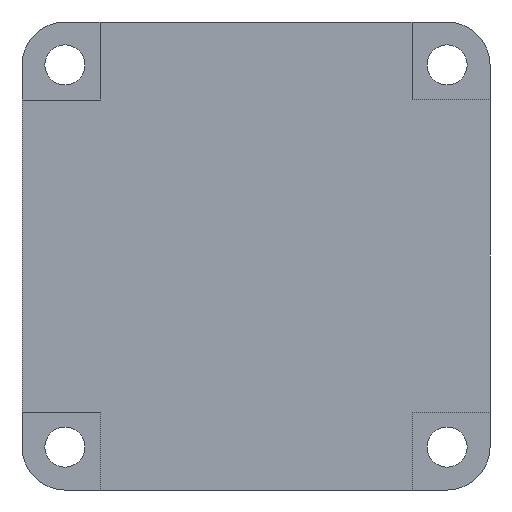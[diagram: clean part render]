
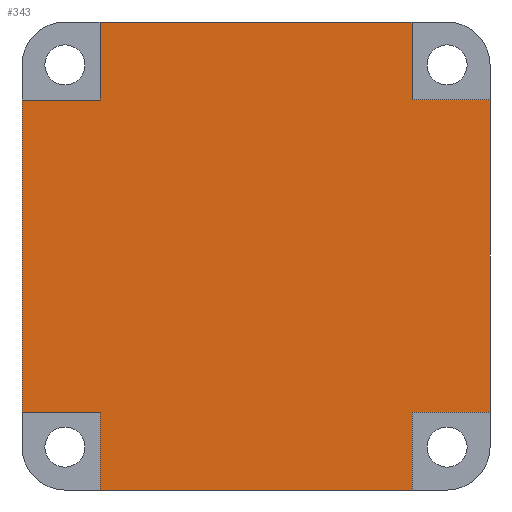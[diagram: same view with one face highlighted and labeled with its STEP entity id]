
A CAD part, front view. The second image highlights one B-rep face of the part: STEP entity #343.
In plain terms, the highlighted planar face has unit normal (0, -1, 0).
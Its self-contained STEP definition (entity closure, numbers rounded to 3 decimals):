
#4 = EDGE_CURVE ( 'NONE', #792, #860, #681, .T. ) ;
#18 = ORIENTED_EDGE ( 'NONE', *, *, #1107, .F. ) ;
#34 = LINE ( 'NONE', #686, #268 ) ;
#40 = DIRECTION ( 'NONE',  ( 0., 0., 1. ) ) ;
#64 = CARTESIAN_POINT ( 'NONE',  ( 35., -59., 0. ) ) ;
#65 = CARTESIAN_POINT ( 'NONE',  ( 0., -59., 0. ) ) ;
#68 = VECTOR ( 'NONE', #302, 1000. ) ;
#75 = LINE ( 'NONE', #1248, #372 ) ;
#81 = VERTEX_POINT ( 'NONE', #839 ) ;
#84 = VECTOR ( 'NONE', #543, 1000. ) ;
#89 = LINE ( 'NONE', #1217, #1094 ) ;
#102 = EDGE_CURVE ( 'NONE', #760, #81, #75, .T. ) ;
#117 = DIRECTION ( 'NONE',  ( 0., 0., -1. ) ) ;
#123 = LINE ( 'NONE', #514, #411 ) ;
#129 = ORIENTED_EDGE ( 'NONE', *, *, #802, .F. ) ;
#149 = VERTEX_POINT ( 'NONE', #287 ) ;
#162 = CARTESIAN_POINT ( 'NONE',  ( 35., -59., -7. ) ) ;
#170 = ORIENTED_EDGE ( 'NONE', *, *, #1078, .F. ) ;
#174 = EDGE_CURVE ( 'NONE', #860, #516, #663, .T. ) ;
#195 = VECTOR ( 'NONE', #1192, 1000. ) ;
#207 = CARTESIAN_POINT ( 'NONE',  ( 0., -59., 0. ) ) ;
#243 = CARTESIAN_POINT ( 'NONE',  ( 7., -59., -7. ) ) ;
#268 = VECTOR ( 'NONE', #304, 1000. ) ;
#285 = ORIENTED_EDGE ( 'NONE', *, *, #4, .F. ) ;
#287 = CARTESIAN_POINT ( 'NONE',  ( 7., -59., -35. ) ) ;
#298 = VERTEX_POINT ( 'NONE', #777 ) ;
#302 = DIRECTION ( 'NONE',  ( 1., 0., 0. ) ) ;
#304 = DIRECTION ( 'NONE',  ( 0., 0., -1. ) ) ;
#327 = EDGE_LOOP ( 'NONE', ( #18, #931, #170, #342, #812, #392, #1240, #975, #285, #1133, #129, #687 ) ) ;
#342 = ORIENTED_EDGE ( 'NONE', *, *, #494, .F. ) ;
#343 = ADVANCED_FACE ( 'NONE', ( #754 ), #882, .T. ) ;
#351 = VECTOR ( 'NONE', #1236, 1000. ) ;
#363 = CARTESIAN_POINT ( 'NONE',  ( 0., -59., -35. ) ) ;
#366 = CARTESIAN_POINT ( 'NONE',  ( 35., -59., 0. ) ) ;
#372 = VECTOR ( 'NONE', #751, 1000. ) ;
#373 = VERTEX_POINT ( 'NONE', #593 ) ;
#392 = ORIENTED_EDGE ( 'NONE', *, *, #1039, .F. ) ;
#409 = CARTESIAN_POINT ( 'NONE',  ( 7., -59., 0. ) ) ;
#411 = VECTOR ( 'NONE', #1204, 1000. ) ;
#428 = VECTOR ( 'NONE', #40, 1000. ) ;
#433 = CARTESIAN_POINT ( 'NONE',  ( 0., -59., -35. ) ) ;
#439 = EDGE_CURVE ( 'NONE', #298, #944, #123, .T. ) ;
#457 = CARTESIAN_POINT ( 'NONE',  ( 7., -59., -42. ) ) ;
#471 = CARTESIAN_POINT ( 'NONE',  ( 7., -59., -42. ) ) ;
#490 = EDGE_CURVE ( 'NONE', #149, #792, #827, .T. ) ;
#494 = EDGE_CURVE ( 'NONE', #741, #373, #89, .T. ) ;
#514 = CARTESIAN_POINT ( 'NONE',  ( 0., -59., -42. ) ) ;
#516 = VERTEX_POINT ( 'NONE', #243 ) ;
#520 = DIRECTION ( 'NONE',  ( 1., 0., 0. ) ) ;
#523 = DIRECTION ( 'NONE',  ( -1., 0., 0. ) ) ;
#543 = DIRECTION ( 'NONE',  ( 0., 0., 1. ) ) ;
#552 = CARTESIAN_POINT ( 'NONE',  ( 0., -59., -7. ) ) ;
#564 = LINE ( 'NONE', #64, #351 ) ;
#568 = VECTOR ( 'NONE', #523, 1000. ) ;
#581 = CARTESIAN_POINT ( 'NONE',  ( 35., -59., -42. ) ) ;
#589 = LINE ( 'NONE', #457, #84 ) ;
#593 = CARTESIAN_POINT ( 'NONE',  ( 42., -59., -7. ) ) ;
#606 = LINE ( 'NONE', #207, #68 ) ;
#614 = VECTOR ( 'NONE', #688, 1000. ) ;
#640 = CARTESIAN_POINT ( 'NONE',  ( 42., -59., -35. ) ) ;
#663 = LINE ( 'NONE', #857, #886 ) ;
#681 = LINE ( 'NONE', #65, #428 ) ;
#686 = CARTESIAN_POINT ( 'NONE',  ( 42., -59., 0. ) ) ;
#687 = ORIENTED_EDGE ( 'NONE', *, *, #439, .F. ) ;
#688 = DIRECTION ( 'NONE',  ( 0., 0., -1. ) ) ;
#693 = DIRECTION ( 'NONE',  ( 0., -1., 0. ) ) ;
#735 = LINE ( 'NONE', #1091, #195 ) ;
#741 = VERTEX_POINT ( 'NONE', #162 ) ;
#751 = DIRECTION ( 'NONE',  ( -1., 0., 0. ) ) ;
#754 = FACE_OUTER_BOUND ( 'NONE', #327, .T. ) ;
#760 = VERTEX_POINT ( 'NONE', #640 ) ;
#774 = LINE ( 'NONE', #581, #614 ) ;
#777 = CARTESIAN_POINT ( 'NONE',  ( 35., -59., -42. ) ) ;
#792 = VERTEX_POINT ( 'NONE', #363 ) ;
#802 = EDGE_CURVE ( 'NONE', #944, #149, #589, .T. ) ;
#810 = EDGE_CURVE ( 'NONE', #842, #741, #564, .T. ) ;
#812 = ORIENTED_EDGE ( 'NONE', *, *, #810, .F. ) ;
#827 = LINE ( 'NONE', #433, #568 ) ;
#839 = CARTESIAN_POINT ( 'NONE',  ( 35., -59., -35. ) ) ;
#842 = VERTEX_POINT ( 'NONE', #366 ) ;
#857 = CARTESIAN_POINT ( 'NONE',  ( 0., -59., -7. ) ) ;
#860 = VERTEX_POINT ( 'NONE', #552 ) ;
#882 = PLANE ( 'NONE',  #983 ) ;
#886 = VECTOR ( 'NONE', #966, 1000. ) ;
#931 = ORIENTED_EDGE ( 'NONE', *, *, #102, .F. ) ;
#944 = VERTEX_POINT ( 'NONE', #471 ) ;
#966 = DIRECTION ( 'NONE',  ( 1., 0., 0. ) ) ;
#975 = ORIENTED_EDGE ( 'NONE', *, *, #174, .F. ) ;
#983 = AXIS2_PLACEMENT_3D ( 'NONE', #1087, #693, #117 ) ;
#1039 = EDGE_CURVE ( 'NONE', #1138, #842, #606, .T. ) ;
#1078 = EDGE_CURVE ( 'NONE', #373, #760, #34, .T. ) ;
#1087 = CARTESIAN_POINT ( 'NONE',  ( 0., -59., 0. ) ) ;
#1091 = CARTESIAN_POINT ( 'NONE',  ( 7., -59., 0. ) ) ;
#1094 = VECTOR ( 'NONE', #520, 1000. ) ;
#1107 = EDGE_CURVE ( 'NONE', #81, #298, #774, .T. ) ;
#1133 = ORIENTED_EDGE ( 'NONE', *, *, #490, .F. ) ;
#1138 = VERTEX_POINT ( 'NONE', #409 ) ;
#1169 = EDGE_CURVE ( 'NONE', #516, #1138, #735, .T. ) ;
#1192 = DIRECTION ( 'NONE',  ( 0., 0., 1. ) ) ;
#1204 = DIRECTION ( 'NONE',  ( -1., 0., 0. ) ) ;
#1217 = CARTESIAN_POINT ( 'NONE',  ( 42., -59., -7. ) ) ;
#1236 = DIRECTION ( 'NONE',  ( 0., 0., -1. ) ) ;
#1240 = ORIENTED_EDGE ( 'NONE', *, *, #1169, .F. ) ;
#1248 = CARTESIAN_POINT ( 'NONE',  ( 42., -59., -35. ) ) ;
